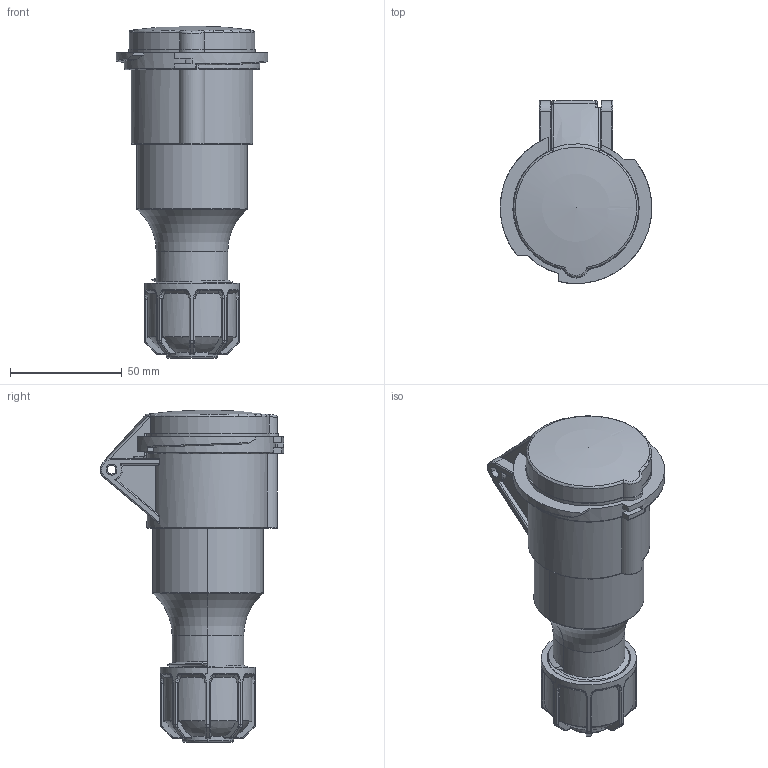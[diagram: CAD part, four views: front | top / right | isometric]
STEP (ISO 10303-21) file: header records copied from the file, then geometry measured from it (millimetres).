
FILE_DESCRIPTION(('FreeCAD Model'),'2;1');
FILE_NAME('Open CASCADE Shape Model','2026-02-04T09:28:59',(''),(''), 'Open CASCADE STEP processor 7.8','FreeCAD','Unknown');
FILE_SCHEMA(('AUTOMOTIVE_DESIGN { 1 0 10303 214 1 1 1 1 }'));
Length unit declared in the file: millimetre
Products named in the file (4): TL3T16443; Prensa cabo; Tomada; Tampa
Assembly tree (3 placements, depth 2):
  TL3T16443
    Prensa cabo
    Tomada
    Tampa
Bounding box: 67.8 x 82.01 x 148.5 mm (x, y, z)
Volume: 229964.6 mm3; surface area: 67388 mm2
Topology: 3 solids, 41 shells, 708 faces, 1720 edges, 1100 vertices
Faces by surface type: plane 257, bspline 200, cylinder 161, torus 55, cone 23, sphere 12
Full cylindrical faces by diameter (mm): 7.5 x1
Entity records: 40578 total; most frequent: CARTESIAN_POINT 25417, ORIENTED_EDGE 3438, DIRECTION 2619, EDGE_CURVE 1719, VERTEX_POINT 1100, AXIS2_PLACEMENT_3D 976, FACE_BOUND 725, EDGE_LOOP 725
